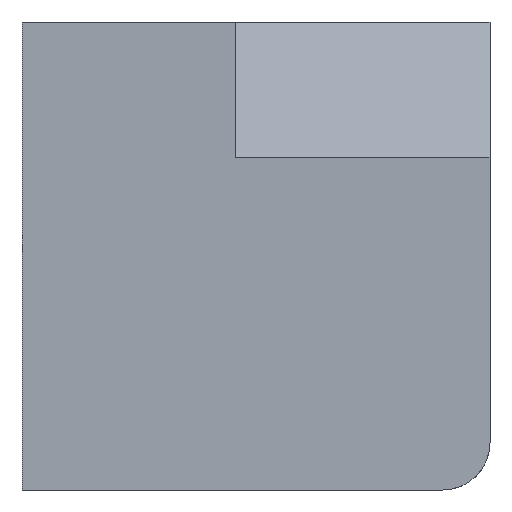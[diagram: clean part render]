
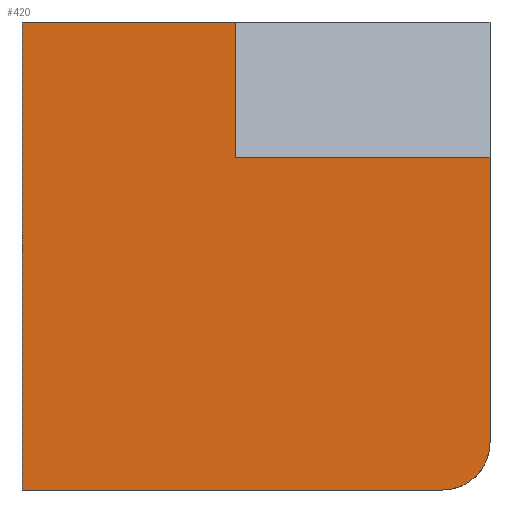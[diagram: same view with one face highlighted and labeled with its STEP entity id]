
A CAD part, left-side view. The second image highlights one B-rep face of the part: STEP entity #420.
In plain terms, the highlighted planar face has unit normal (-1, 0, 0).
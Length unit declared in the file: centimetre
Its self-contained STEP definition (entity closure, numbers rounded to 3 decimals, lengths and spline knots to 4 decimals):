
#20 = LINE ( 'NONE', #649, #505 ) ;
#53 = CARTESIAN_POINT ( 'NONE',  ( 0., 101.6489, 101.6489 ) ) ;
#64 = CARTESIAN_POINT ( 'NONE',  ( 0., 0., 101.6489 ) ) ;
#71 = CARTESIAN_POINT ( 'NONE',  ( 0., 543.3927, 711.1336 ) ) ;
#81 = DIRECTION ( 'NONE',  ( 0., -1., 0. ) ) ;
#95 = AXIS2_PLACEMENT_3D ( 'NONE', #608, #531, #255 ) ;
#110 = CARTESIAN_POINT ( 'NONE',  ( 0., 1000., 1000. ) ) ;
#126 = EDGE_CURVE ( 'NONE', #559, #867, #353, .T. ) ;
#132 = DIRECTION ( 'NONE',  ( 0., 0., -1. ) ) ;
#137 = CARTESIAN_POINT ( 'NONE',  ( 0., 1000., 0. ) ) ;
#139 = VERTEX_POINT ( 'NONE', #71 ) ;
#174 = VERTEX_POINT ( 'NONE', #337 ) ;
#188 = ORIENTED_EDGE ( 'NONE', *, *, #478, .T. ) ;
#225 = EDGE_CURVE ( 'NONE', #919, #354, #20, .T. ) ;
#231 = LINE ( 'NONE', #299, #851 ) ;
#241 = EDGE_CURVE ( 'NONE', #139, #559, #231, .T. ) ;
#255 = DIRECTION ( 'NONE',  ( 0., 0., -1. ) ) ;
#262 = DIRECTION ( 'NONE',  ( 0., 0., -1. ) ) ;
#299 = CARTESIAN_POINT ( 'NONE',  ( 0., 543.3927, 711.1336 ) ) ;
#314 = LINE ( 'NONE', #671, #344 ) ;
#318 = PLANE ( 'NONE',  #95 ) ;
#337 = CARTESIAN_POINT ( 'NONE',  ( 0., 1000., 1000. ) ) ;
#344 = VECTOR ( 'NONE', #548, 100. ) ;
#353 = LINE ( 'NONE', #424, #690 ) ;
#354 = VERTEX_POINT ( 'NONE', #473 ) ;
#416 = ORIENTED_EDGE ( 'NONE', *, *, #462, .F. ) ;
#420 = ADVANCED_FACE ( 'NONE', ( #818 ), #318, .F. ) ;
#422 = ORIENTED_EDGE ( 'NONE', *, *, #467, .T. ) ;
#424 = CARTESIAN_POINT ( 'NONE',  ( 0., 0., 1000. ) ) ;
#445 = ORIENTED_EDGE ( 'NONE', *, *, #790, .F. ) ;
#451 = DIRECTION ( 'NONE',  ( 0., -1., 0. ) ) ;
#462 = EDGE_CURVE ( 'NONE', #174, #636, #314, .T. ) ;
#467 = EDGE_CURVE ( 'NONE', #354, #867, #878, .T. ) ;
#472 = AXIS2_PLACEMENT_3D ( 'NONE', #53, #898, #907 ) ;
#473 = CARTESIAN_POINT ( 'NONE',  ( 0., 101.6489, 0. ) ) ;
#478 = EDGE_CURVE ( 'NONE', #174, #919, #748, .T. ) ;
#505 = VECTOR ( 'NONE', #451, 100. ) ;
#531 = DIRECTION ( 'NONE',  ( 1., 0., 0. ) ) ;
#539 = DIRECTION ( 'NONE',  ( 0., 0., -1. ) ) ;
#548 = DIRECTION ( 'NONE',  ( 0., -1., 0. ) ) ;
#559 = VERTEX_POINT ( 'NONE', #873 ) ;
#589 = VECTOR ( 'NONE', #539, 100. ) ;
#608 = CARTESIAN_POINT ( 'NONE',  ( 0., 1000., 1000. ) ) ;
#610 = ORIENTED_EDGE ( 'NONE', *, *, #241, .F. ) ;
#630 = EDGE_LOOP ( 'NONE', ( #784, #610, #445, #416, #188, #791, #422 ) ) ;
#636 = VERTEX_POINT ( 'NONE', #725 ) ;
#649 = CARTESIAN_POINT ( 'NONE',  ( 0., 1000., 0. ) ) ;
#671 = CARTESIAN_POINT ( 'NONE',  ( 0., 1000., 1000. ) ) ;
#690 = VECTOR ( 'NONE', #132, 100. ) ;
#694 = CARTESIAN_POINT ( 'NONE',  ( 0., 543.3927, 1000. ) ) ;
#725 = CARTESIAN_POINT ( 'NONE',  ( 0., 543.3927, 1000. ) ) ;
#741 = VECTOR ( 'NONE', #262, 100. ) ;
#748 = LINE ( 'NONE', #110, #589 ) ;
#784 = ORIENTED_EDGE ( 'NONE', *, *, #126, .F. ) ;
#790 = EDGE_CURVE ( 'NONE', #636, #139, #909, .T. ) ;
#791 = ORIENTED_EDGE ( 'NONE', *, *, #225, .T. ) ;
#818 = FACE_OUTER_BOUND ( 'NONE', #630, .T. ) ;
#851 = VECTOR ( 'NONE', #81, 100. ) ;
#867 = VERTEX_POINT ( 'NONE', #64 ) ;
#873 = CARTESIAN_POINT ( 'NONE',  ( 0., 0., 711.1336 ) ) ;
#878 = CIRCLE ( 'NONE', #472, 101.6489 ) ;
#898 = DIRECTION ( 'NONE',  ( -1., 0., 0. ) ) ;
#907 = DIRECTION ( 'NONE',  ( 0., 0., -1. ) ) ;
#909 = LINE ( 'NONE', #694, #741 ) ;
#919 = VERTEX_POINT ( 'NONE', #137 ) ;
